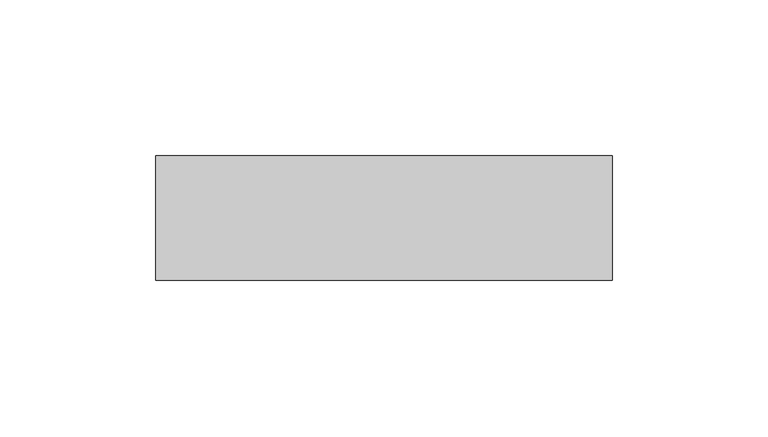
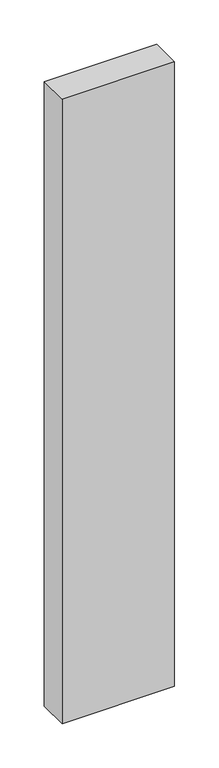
"""IFC4 building model written with IfcOpenShell, lengths in millimetres: plate geometry, Panneau système : Vitre 4cm."""

from ifc_helpers import new_model, si_unit, origin, origin_with_axes, place, context, project, spatial, polyline, outline, extrude, source, transform, mapped, element, save


def plate_76f19d64(model_context):
    return source(origin(), model_context, "Body", "SweptSolid", [
        extrude(outline(polyline([(73.2105561, -20.0), (-73.2105561, -20.0), (-73.2105561, 20.0), (73.2105561, 20.0), (73.2105561, -20.0)])), origin_with_axes(), (0.0, 0.0, 1.0), 860.0),
    ])


if __name__ == "__main__":
    model = new_model("IFC4")
    model_context = context("Model", 3, world=origin())
    ifc_project = project(units=[si_unit("LENGTHUNIT", "METRE", prefix="MILLI")], contexts=[model_context])
    site = spatial("IfcSite", under=ifc_project)
    building = spatial("IfcBuilding", under=site)
    placement = place(None, origin())
    plate_shape = plate_76f19d64(model_context)
    element("IfcPlate", 1, ObjectType="Panneau système : Vitre 4cm", at=placement, inside=building, context=model_context, shape_type="MappedRepresentation", body=[
        mapped(plate_shape, transform((0.0, 0.0, 0.0), x_axis=(1.0, 0.0, 0.0), y_axis=(0.0, 1.0, 0.0), z_axis=(0.0, 0.0, 1.0))),
    ])
    save(model, "model.ifc")
